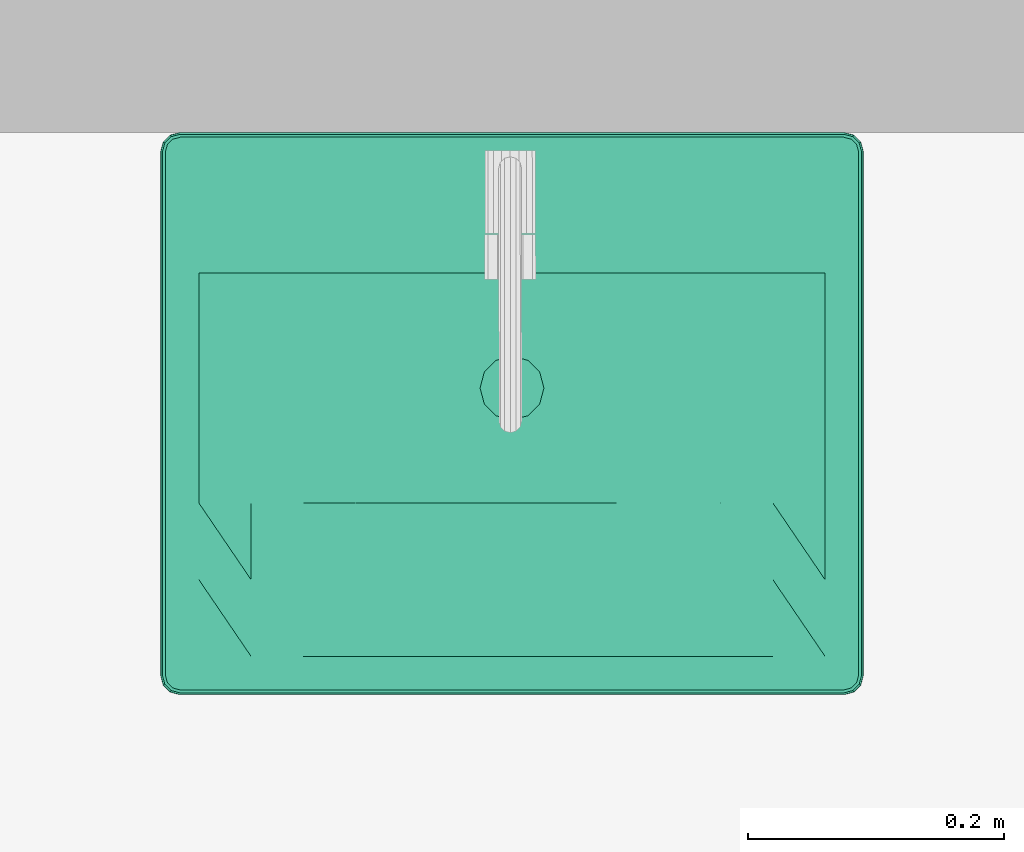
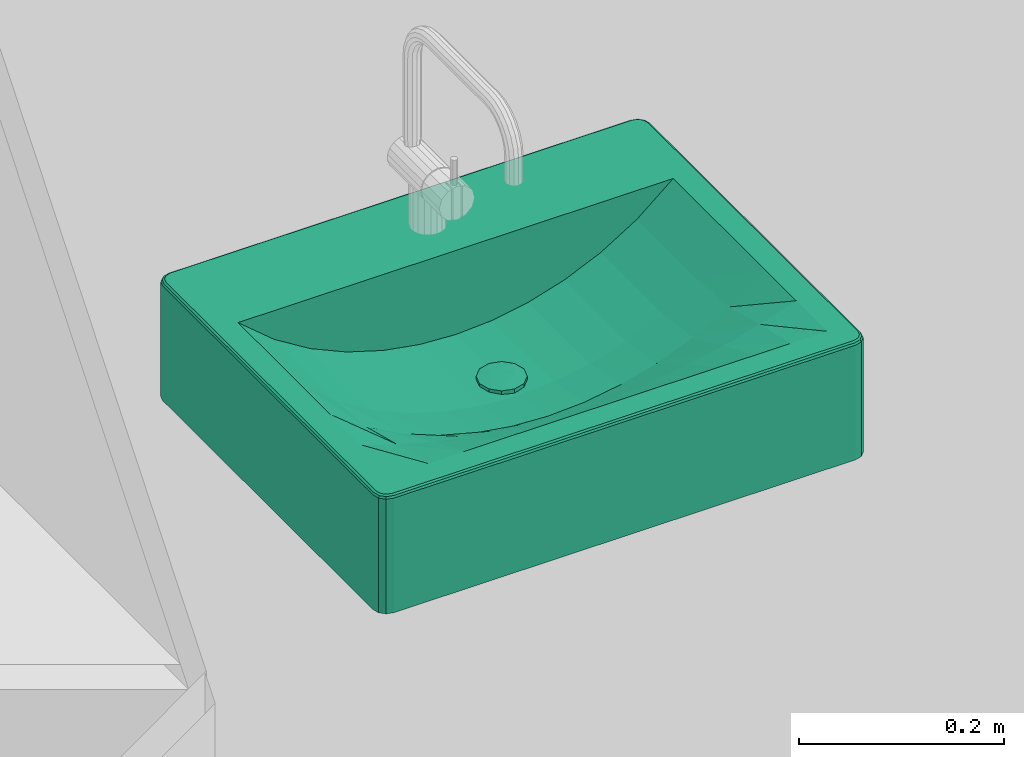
# One storey, part 120 of 194: 1 flow terminal.
"""IFC2X3 building model written with IfcOpenShell, lengths in millimetres."""

import ifcopenshell
import ifcopenshell.guid

model = None  # the IFC model being written
_history = None  # IfcOwnerHistory: only IFC2X3 demands one
_inside = {}  # id of a spatial element -> (the spatial element, [elements in it])
_under = {}  # id of a project, library or spatial element -> (it, [spatial elements below it])
_declared = {}  # id of a project -> (the project, [libraries it declares])
_typed = {}  # id of a type object -> (the type object, [elements of that type])
_made_of = {}  # id of a material, layer set ... -> (it, [elements and type objects made of it])


def new_model(schema):
    """Start an empty IFC model of exactly this schema.

    Asked for "IFC4X3", IfcOpenShell would pick the latest addendum, in which some entities
    have other attributes; the version numbers below select the first issue.
    IFC2X3 requires an IfcOwnerHistory on every rooted entity: one is made here for all.
    """
    global model, _history
    if schema == "IFC4X3":
        model = ifcopenshell.file(schema_version=(4, 3, 0, 0))
    else:
        model = ifcopenshell.file(schema=schema)
    _inside.clear()
    _under.clear()
    _declared.clear()
    _typed.clear()
    _made_of.clear()
    _history = None
    if model.schema == "IFC2X3":
        org = make("IfcOrganization", Name="unknown")
        user = make(
            "IfcPersonAndOrganization",
            ThePerson=make("IfcPerson", FamilyName="unknown"),
            TheOrganization=org,
        )
        app = make(
            "IfcApplication",
            ApplicationDeveloper=org,
            Version="unknown",
            ApplicationFullName="unknown",
            ApplicationIdentifier="unknown",
        )
        _history = make(
            "IfcOwnerHistory",
            OwningUser=user,
            OwningApplication=app,
            ChangeAction="ADDED",
            CreationDate=0,
        )
    return model


def make(cls, **values):
    """One entity of the class cls with the attributes given. An attribute that is None is left unset."""
    return model.create_entity(
        cls, **{name: value for name, value in values.items() if value is not None}
    )


def entity(cls, *values):
    """Any entity or typed value of the class cls, its attributes in the order of the schema. None: left unset."""
    e = model.create_entity(cls)
    for i, value in enumerate(values):
        if value is not None:
            e[i] = value
    return e


def rooted(cls, **values):
    """An entity with a GlobalId (a new one), such as an element, a storey or a relation."""
    return make(cls, GlobalId=ifcopenshell.guid.new(), OwnerHistory=_history, **values)


def si_unit(unit_type, name, prefix=None):
    """IfcSIUnit, for example si_unit("LENGTHUNIT", "METRE", prefix="MILLI")."""
    return make("IfcSIUnit", UnitType=unit_type, Prefix=prefix, Name=name)


def converted_unit(unit_type, name, factor, base, dimensions=None, offset=None):
    """IfcConversionBasedUnit, such as the inch: factor (a typed value) times the base unit."""
    return make(
        "IfcConversionBasedUnit"
        if offset is None
        else "IfcConversionBasedUnitWithOffset",
        ConversionOffset=offset,
        Dimensions=None
        if dimensions is None
        else entity("IfcDimensionalExponents", *dimensions),
        UnitType=unit_type,
        Name=name,
        ConversionFactor=make(
            "IfcMeasureWithUnit", ValueComponent=factor, UnitComponent=base
        ),
    )


def derived_unit(unit_type, elements):
    """IfcDerivedUnit: a product of units, each with its exponent."""
    return make(
        "IfcDerivedUnit",
        Elements=[
            make("IfcDerivedUnitElement", Unit=unit, Exponent=power)
            for unit, power in elements
        ],
        UnitType=unit_type,
    )


def money_unit(currency):
    """IfcMonetaryUnit."""
    return make("IfcMonetaryUnit", Currency=currency)


def assignment(units):
    """IfcUnitAssignment: the units of a project."""
    return None if units is None else make("IfcUnitAssignment", Units=units)


def point(xyz):
    """IfcCartesianPoint."""
    return None if xyz is None else make("IfcCartesianPoint", Coordinates=xyz)


def direction(xyz):
    """IfcDirection."""
    return None if xyz is None else make("IfcDirection", DirectionRatios=xyz)


def frame(location, z_axis=None, x_axis=None):
    """IfcAxis2Placement3D, a coordinate frame: its origin and axes. An axis left out is left unset."""
    return make(
        "IfcAxis2Placement3D",
        Location=point(location),
        Axis=direction(z_axis),
        RefDirection=direction(x_axis),
    )


def origin_with_axes():
    """The frame at (0, 0, 0) with the z axis (0, 0, 1) and the x axis (1, 0, 0) written out."""
    return frame((0.0, 0.0, 0.0), z_axis=(0.0, 0.0, 1.0), x_axis=(1.0, 0.0, 0.0))


def place(relative_to, where):
    """IfcLocalPlacement: puts the frame where relative to a parent placement (None: the world)."""
    return make(
        "IfcLocalPlacement", PlacementRelTo=relative_to, RelativePlacement=where
    )


def context(
    kind, dimensions, precision=None, world=None, true_north=None, identifier=None
):
    """IfcGeometricRepresentationContext, for example the 3D "Model" context."""
    return make(
        "IfcGeometricRepresentationContext",
        ContextIdentifier=identifier,
        ContextType=kind,
        CoordinateSpaceDimension=dimensions,
        Precision=precision,
        WorldCoordinateSystem=world,
        TrueNorth=true_north,
    )


def subcontext(parent, identifier, kind, view, scale=None):
    """IfcGeometricRepresentationSubContext, for example "Body" below "Model"."""
    return make(
        "IfcGeometricRepresentationSubContext",
        ContextIdentifier=identifier,
        ContextType=kind,
        ParentContext=parent,
        TargetScale=scale,
        TargetView=view,
    )


def project(units=None, contexts=None):
    """IfcProject with its units and contexts."""
    return rooted(
        "IfcProject",
        Name="project",
        RepresentationContexts=contexts,
        UnitsInContext=assignment(units),
    )


def spatial(cls, under=None, at=None, **own):
    """A site, building, storey or space (cls), placed at a placement, below another one or the project."""
    s = rooted(cls, ObjectPlacement=at, **own)
    if under is not None:
        _under.setdefault(under.id(), (under, []))[1].append(s)
    return s


def faces_of(points, faces, orient=None, outer=None):
    """IfcFace entities. A face is a list of loops; a loop is a list of indices into points, from 0.

    orient and outer hold one flag for each loop. By default every Orientation is true, the
    first loop of a face is its IfcFaceOuterBound and the others are IfcFaceBound.
    """
    made = []
    for i, loops in enumerate(faces):
        bounds = []
        for j, loop in enumerate(loops):
            is_outer = j == 0 if outer is None else outer[i][j]
            bounds.append(
                make(
                    "IfcFaceOuterBound" if is_outer else "IfcFaceBound",
                    Bound=make("IfcPolyLoop", Polygon=[points[k] for k in loop]),
                    Orientation=True if orient is None else orient[i][j],
                )
            )
        made.append(make("IfcFace", Bounds=bounds))
    return made


def open_shell(faces, orient=None, outer=None):
    """The faces of one IfcOpenShell. surface_model builds it on its shared points."""
    return ("IfcOpenShell", faces, orient, outer)


def faceted_brep(points, faces, orient=None, outer=None, voids=None):
    """IfcFacetedBrep: a solid bounded by flat faces; with voids (closed shells), ...WithVoids."""
    shared = [point(p) for p in points]
    hull = make("IfcClosedShell", CfsFaces=faces_of(shared, faces, orient, outer))
    if voids is None:
        return make("IfcFacetedBrep", Outer=hull)
    return make(
        "IfcFacetedBrepWithVoids",
        Outer=hull,
        Voids=[
            make(cls, CfsFaces=faces_of(shared, fs, o, b)) for cls, fs, o, b in voids
        ],
    )


def surface_model(cls, points, shells):
    """IfcFaceBasedSurfaceModel or IfcShellBasedSurfaceModel (cls): surfaces that need not close."""
    shared = [point(p) for p in points]
    made = [make(c, CfsFaces=faces_of(shared, fs, o, b)) for c, fs, o, b in shells]
    if cls == "IfcFaceBasedSurfaceModel":
        return make(cls, FbsmFaces=made)
    return make(cls, SbsmBoundary=made)


def shape(context_of_items, identifier, shape_type, items):
    """IfcShapeRepresentation: the items that make up one representation, for example the "Body"."""
    return make(
        "IfcShapeRepresentation",
        ContextOfItems=context_of_items,
        RepresentationIdentifier=identifier,
        RepresentationType=shape_type,
        Items=items,
    )


def source(mapping_origin, context_of_items, identifier, shape_type, items):
    """IfcRepresentationMap: a shape defined once, which mapped items show again and again."""
    return make(
        "IfcRepresentationMap",
        MappingOrigin=mapping_origin,
        MappedRepresentation=shape(context_of_items, identifier, shape_type, items),
    )


def transform(
    local_origin,
    x_axis=None,
    y_axis=None,
    z_axis=None,
    scale=None,
    scale2=None,
    scale3=None,
    uniform=True,
):
    """IfcCartesianTransformationOperator3D, or its non-uniform kind. x_axis, y_axis, z_axis: its Axis1, 2, 3."""
    if uniform:
        return make(
            "IfcCartesianTransformationOperator3D",
            Axis1=direction(x_axis),
            Axis2=direction(y_axis),
            LocalOrigin=point(local_origin),
            Scale=scale,
            Axis3=direction(z_axis),
        )
    return make(
        "IfcCartesianTransformationOperator3DnonUniform",
        Axis1=direction(x_axis),
        Axis2=direction(y_axis),
        LocalOrigin=point(local_origin),
        Scale=scale,
        Axis3=direction(z_axis),
        Scale2=scale2,
        Scale3=scale3,
    )


def mapped(mapping_source, mapping_target):
    """IfcMappedItem: shows the shape of a source again, moved by a transform."""
    return make(
        "IfcMappedItem", MappingSource=mapping_source, MappingTarget=mapping_target
    )


def made_of(thing, what):
    """Note that an element or type object is made of a material, layer set ...; save() writes the relation."""
    if what is not None:
        _made_of.setdefault(what.id(), (what, []))[1].append(thing)
    return thing


def type_object(cls, material=None, **own):
    """A type object (cls), such as IfcWallType, which elements share."""
    return made_of(rooted(cls, **own), material)


def element(
    cls,
    number,
    at=None,
    inside=None,
    cuts=None,
    type_object=None,
    material=None,
    context=None,
    identifier="Body",
    shape_type=None,
    held_by="IfcProductDefinitionShape",
    body=None,
    shapes=None,
    **own,
):
    """One element of the class cls, such as IfcWall. Its Tag is "e" and its number.

    at: its placement. inside: the storey or other place that contains it. cuts: it is an
    opening in that element (IfcRelVoidsElement). A single representation is given by context,
    identifier, shape_type and body (its items); several are given by shapes. held_by: the class
    of the entity that holds the representations. save() writes the other relations.
    """
    e = rooted(cls, Tag="e%d" % number, ObjectPlacement=at, **own)
    if body is not None:
        shapes = [shape(context, identifier, shape_type, body)]
    if shapes is not None:
        e.Representation = make(held_by, Representations=shapes)
    if inside is not None:
        _inside.setdefault(inside.id(), (inside, []))[1].append(e)
    if cuts is not None:
        rooted(
            "IfcRelVoidsElement", RelatingBuildingElement=cuts, RelatedOpeningElement=e
        )
    if type_object is not None:
        _typed.setdefault(type_object.id(), (type_object, []))[1].append(e)
    return made_of(e, material)


def aggregate(whole, parts):
    """IfcRelAggregates: a whole, such as a stair, and the parts it consists of."""
    return rooted("IfcRelAggregates", RelatingObject=whole, RelatedObjects=parts)


def save(model, path):
    """Write the relations noted so far, then the file.

    IfcRelAggregates (storeys below a building ...), IfcRelContainedInSpatialStructure (elements
    in a storey), IfcRelDefinesByType, IfcRelAssociatesMaterial and IfcRelDeclares: one each for
    every whole, place, type object, material and project.
    """
    for whole, parts in _under.values():
        aggregate(whole, parts)
    for where, things in _inside.values():
        rooted(
            "IfcRelContainedInSpatialStructure",
            RelatedElements=things,
            RelatingStructure=where,
        )
    for kind, things in _typed.values():
        rooted("IfcRelDefinesByType", RelatedObjects=things, RelatingType=kind)
    for what, things in _made_of.values():
        rooted("IfcRelAssociatesMaterial", RelatedObjects=things, RelatingMaterial=what)
    for by, libraries in _declared.values():
        rooted("IfcRelDeclares", RelatingContext=by, RelatedDefinitions=libraries)
    model.write(path)


model = new_model("IFC2X3")

# Units and contexts
model_context = context("Model", 3, precision=1e-05, world=origin_with_axes(), true_north=direction((0.0, 1.0)))
body_context = subcontext(model_context, "Body", "Model", "MODEL_VIEW")
ifc_project = project(units=[si_unit("LENGTHUNIT", "METRE", prefix="MILLI"), si_unit("AREAUNIT", "SQUARE_METRE"), si_unit("VOLUMEUNIT", "CUBIC_METRE"), converted_unit("PLANEANGLEUNIT", "DEGREE", entity("IfcPlaneAngleMeasure", 0.0174532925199), si_unit("PLANEANGLEUNIT", "RADIAN"), dimensions=[0, 0, 0, 0, 0, 0, 0]), si_unit("SOLIDANGLEUNIT", "STERADIAN"), money_unit("EUR"), converted_unit("TIMEUNIT", "Year", entity("IfcTimeMeasure", 31556926.0), si_unit("TIMEUNIT", "SECOND"), dimensions=[0, 0, 1, 0, 0, 0, 0]), si_unit("MASSUNIT", "GRAM", prefix="KILO"), si_unit("THERMODYNAMICTEMPERATUREUNIT", "DEGREE_CELSIUS"), si_unit("LUMINOUSINTENSITYUNIT", "LUMEN"), si_unit("ENERGYUNIT", "JOULE", prefix="MEGA"), derived_unit("THERMALCONDUCTANCEUNIT", [(si_unit("POWERUNIT", "WATT"), 1), (si_unit("LENGTHUNIT", "METRE"), -1), (si_unit("THERMODYNAMICTEMPERATUREUNIT", "KELVIN"), -1)]), derived_unit("SPECIFICHEATCAPACITYUNIT", [(si_unit("ENERGYUNIT", "JOULE"), 1), (si_unit("MASSUNIT", "GRAM", prefix="KILO"), -1), (si_unit("THERMODYNAMICTEMPERATUREUNIT", "KELVIN"), -1)]), derived_unit("MASSDENSITYUNIT", [(si_unit("MASSUNIT", "GRAM", prefix="KILO"), 1), (si_unit("VOLUMEUNIT", "CUBIC_METRE"), -1)])], contexts=[model_context])

# Site, building, storey
site_placement = place(None, origin_with_axes())
site = spatial("IfcSite", under=ifc_project, at=site_placement, Name="Site", CompositionType="ELEMENT")
building_placement = place(site_placement, origin_with_axes())
building = spatial("IfcBuilding", under=site, at=building_placement, Name="Building", CompositionType="ELEMENT")
storey_placement = place(building_placement, frame((0.0, 0.0, 3000.0), z_axis=(0.0, 0.0, 1.0), x_axis=(1.0, 0.0, 0.0)))
storey = spatial("IfcBuildingStorey", under=building, at=storey_placement, Name="2 KORRUS", CompositionType="ELEMENT", Elevation=3000.0)

# Flow terminal
sanitary_terminal_type = type_object("IfcSanitaryTerminalType", Name="Basin 22", PredefinedType="NOTDEFINED")
shared_shape = source(origin_with_axes(), body_context, "Body", "SurfaceModel", [
    faceted_brep([(-260.0, -440.0, 860.0), (-267.5, -437.990381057, 860.0), (-272.990381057, -432.5, 860.0), (-275.0, -425.0, 860.0), (-275.0, -15.0, 860.0), (-272.990381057, -7.5, 860.0), (-267.5, -2.00961894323, 860.0), (-260.0, 0.0, 860.0), (260.0, 0.0, 860.0), (267.5, -2.00961894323, 860.0), (272.990381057, -7.5, 860.0), (275.0, -15.0, 860.0), (275.0, -425.0, 860.0), (272.990381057, -432.5, 860.0), (267.5, -437.990381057, 860.0), (260.0, -440.0, 860.0), (245.0, -410.0, 860.0), (245.0, -110.0, 860.0), (-245.0, -110.0, 860.0), (-245.0, -410.0, 860.0), (-259.999999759, -440.00000039, 995.0), (-267.500000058, -437.990381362, 995.0), (-272.990381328, -432.500000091, 995.0), (-275.000000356, -424.999999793, 995.0), (-275.000000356, -14.9999996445, 995.0), (-272.990381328, -7.50000027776, 995.0), (-267.500000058, -2.00961900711, 995.0), (-259.999999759, 2.02655670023e-08, 995.0), (259.999999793, 2.02655670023e-08, 995.0), (267.500000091, -2.00961900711, 995.0), (272.990381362, -7.50000027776, 995.0), (275.00000039, -14.9999996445, 995.0), (275.00000039, -424.999999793, 995.0), (272.990381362, -432.500000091, 995.0), (267.500000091, -437.990381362, 995.0), (259.999999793, -440.00000039, 995.0), (245.0, -110.0, 999.999999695), (245.0, -410.0, 999.999999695), (-245.0, -110.0, 999.999999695), (-245.0, -410.0, 999.999999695), (-259.977570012, -439.829629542, 996.294095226), (-267.411809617, -437.837631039, 996.294095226), (-272.837631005, -432.411809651, 996.294095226), (-274.829629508, -424.977570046, 996.294095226), (-274.829629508, -15.0224293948, 996.294095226), (-272.837631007, -7.58819072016, 996.294095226), (-267.411809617, -2.16236933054, 996.294095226), (-259.977570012, -0.170370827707, 996.294095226), (259.977570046, -0.170370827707, 996.294095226), (267.411809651, -2.16236933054, 996.294095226), (272.837631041, -7.58819072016, 996.294095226), (274.829629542, -15.0224293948, 996.294095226), (274.829629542, -424.977570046, 996.294095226), (272.837631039, -432.411809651, 996.294095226), (267.411809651, -437.837631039, 996.294095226), (259.977570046, -439.829629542, 996.294095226), (259.34173768, -4.99999712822, 999.999999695), (-259.341737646, -4.99999712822, 999.999999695), (-264.911811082, -6.49249381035, 999.999999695), (-268.507506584, -10.0881893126, 999.999999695), (-270.000003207, -15.6582618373, 999.999999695), (-270.000003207, -424.34173768, 999.999999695), (-268.507506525, -429.911811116, 999.999999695), (-264.911811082, -433.507506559, 999.999999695), (-259.341737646, -435.000003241, 999.999999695), (259.34173768, -435.000003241, 999.999999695), (264.911811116, -433.507506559, 999.999999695), (268.507506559, -429.911811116, 999.999999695), (270.000003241, -424.34173768, 999.999999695), (270.000003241, -15.6582618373, 999.999999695), (268.507506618, -10.0881893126, 999.999999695), (264.911811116, -6.49249381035, 999.999999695), (-259.807199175, -438.535534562, 998.535533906), (-266.741936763, -436.677377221, 998.535533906), (-271.677377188, -431.741936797, 998.535533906), (-273.535534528, -424.807199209, 998.535533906), (-273.535534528, -15.1928002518, 998.535533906), (-271.677377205, -8.2580635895, 998.535533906), (-266.741936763, -3.32262314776, 998.535533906), (-259.807199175, -1.46446580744, 998.535533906), (259.807199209, -1.46446580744, 998.535533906), (266.741936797, -3.32262314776, 998.535533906), (271.677377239, -8.2580635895, 998.535533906), (273.535534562, -15.1928002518, 998.535533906), (273.535534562, -424.807199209, 998.535533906), (271.677377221, -431.741936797, 998.535533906), (266.741936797, -436.677377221, 998.535533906), (259.807199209, -438.535534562, 998.535533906), (259.512108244, -3.70590421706, 999.829629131), (-259.51210821, -3.70590421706, 999.829629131), (-265.581682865, -5.33224184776, 999.829629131), (-269.667758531, -9.41831751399, 999.829629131), (-271.294096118, -15.4878912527, 999.829629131), (-271.294096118, -424.512108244, 999.829629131), (-269.667758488, -430.581682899, 999.829629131), (-265.581682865, -434.667758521, 999.829629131), (-259.51210821, -436.294096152, 999.829629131), (259.512108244, -436.294096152, 999.829629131), (265.581682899, -434.667758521, 999.829629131), (269.667758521, -430.581682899, 999.829629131), (271.294096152, -424.512108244, 999.829629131), (271.294096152, -15.4878912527, 999.829629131), (269.667758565, -9.41831751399, 999.829629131), (265.581682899, -5.33224184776, 999.829629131)], [[[0, 1, 2, 3, 4, 5, 6, 7, 8, 9, 10, 11, 12, 13, 14, 15], [16, 17, 18, 19]], [[1, 0, 20, 21]], [[2, 1, 21, 22]], [[3, 2, 22, 23]], [[4, 3, 23, 24]], [[5, 4, 24, 25]], [[6, 5, 25, 26]], [[7, 6, 26, 27]], [[8, 7, 27, 28]], [[9, 8, 28, 29]], [[10, 9, 29, 30]], [[11, 10, 30, 31]], [[12, 11, 31, 32]], [[13, 12, 32, 33]], [[14, 13, 33, 34]], [[15, 14, 34, 35]], [[0, 15, 35, 20]], [[36, 17, 16, 37]], [[38, 18, 17, 36]], [[39, 19, 18, 38]], [[37, 16, 19, 39]], [[21, 20, 40, 41]], [[22, 21, 41, 42]], [[23, 22, 42, 43]], [[24, 23, 43, 44]], [[25, 24, 44, 45]], [[26, 25, 45, 46]], [[27, 26, 46, 47]], [[28, 27, 47, 48]], [[29, 28, 48, 49]], [[30, 29, 49, 50]], [[31, 30, 50, 51]], [[32, 31, 51, 52]], [[33, 32, 52, 53]], [[34, 33, 53, 54]], [[35, 34, 54, 55]], [[20, 35, 55, 40]], [[56, 57, 58, 59, 60, 61, 62, 63, 64, 65, 66, 67, 68, 69, 70, 71], [37, 39, 38, 36]], [[41, 40, 72, 73]], [[42, 41, 73, 74]], [[43, 42, 74, 75]], [[44, 43, 75, 76]], [[45, 44, 76, 77]], [[46, 45, 77, 78]], [[47, 46, 78, 79]], [[48, 47, 79, 80]], [[49, 48, 80, 81]], [[50, 49, 81, 82]], [[51, 50, 82, 83]], [[52, 51, 83, 84]], [[53, 52, 84, 85]], [[54, 53, 85, 86]], [[55, 54, 86, 87]], [[40, 55, 87, 72]], [[88, 89, 57, 56]], [[89, 90, 58, 57]], [[90, 91, 59, 58]], [[91, 92, 60, 59]], [[92, 93, 61, 60]], [[93, 94, 62, 61]], [[94, 95, 63, 62]], [[95, 96, 64, 63]], [[96, 97, 65, 64]], [[97, 98, 66, 65]], [[98, 99, 67, 66]], [[99, 100, 68, 67]], [[100, 101, 69, 68]], [[101, 102, 70, 69]], [[102, 103, 71, 70]], [[103, 88, 56, 71]], [[73, 72, 96, 95]], [[74, 73, 95, 94]], [[75, 74, 94, 93]], [[76, 75, 93, 92]], [[77, 76, 92, 91]], [[78, 77, 91, 90]], [[79, 78, 90, 89]], [[80, 79, 89, 88]], [[81, 80, 88, 103]], [[82, 81, 103, 102]], [[83, 82, 102, 101]], [[84, 83, 101, 100]], [[85, 84, 100, 99]], [[86, 85, 99, 98]], [[87, 86, 98, 97]], [[72, 87, 97, 96]]]),
    faceted_brep([(245.0, -410.0, 860.0), (-245.0, -410.0, 860.0), (-245.0, -110.0, 860.0), (245.0, -110.0, 860.0), (-12.5, -221.641635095, 860.0), (0.0, -224.991, 860.0), (12.5, -221.641635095, 860.0), (21.6506350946, -212.491, 860.0), (25.0, -199.991, 860.0), (21.6506350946, -187.491, 860.0), (12.5, -178.340364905, 860.0), (0.0, -174.991, 860.0), (-12.5, -178.340364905, 860.0), (-21.6506350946, -187.491, 860.0), (-25.0, -199.991, 860.0), (-21.6506350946, -212.491, 860.0), (122.5, -410.0, 1000.0), (81.6666666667, -410.0, 1000.0), (40.8333333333, -410.0, 1000.0), (0.0, -410.0, 1000.0), (-40.8333333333, -410.0, 1000.0), (-81.6666666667, -410.0, 1000.0), (-122.5, -410.0, 1000.0), (-163.333333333, -410.0, 1000.0), (-204.166666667, -410.0, 1000.0), (-245.0, -410.0, 1000.0), (245.0, -410.0, 1000.0), (204.166666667, -410.0, 1000.0), (163.333333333, -410.0, 1000.0), (-245.0, -230.0, 1000.0), (-245.0, -170.0, 1000.0), (-245.0, -110.0, 1000.0), (-245.0, -350.0, 1000.0), (-245.0, -290.0, 1000.0), (-122.5, -110.0, 922.129168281), (-81.6666666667, -110.0, 909.657569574), (-40.8333333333, -110.0, 902.389246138), (0.0, -110.0, 900.0), (40.8333333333, -110.0, 902.389246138), (81.6666666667, -110.0, 909.657569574), (122.5, -110.0, 922.129168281), (163.333333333, -110.0, 940.432026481), (204.166666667, -110.0, 965.689615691), (245.0, -110.0, 1000.0), (-204.166666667, -110.0, 965.689615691), (-163.333333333, -110.0, 940.432026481), (245.0, -290.0, 1000.0), (245.0, -350.0, 1000.0), (245.0, -170.0, 1000.0), (245.0, -230.0, 1000.0), (0.0, -224.991, 900.0), (-12.5, -221.641635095, 900.731401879), (12.5, -221.641635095, 900.731401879), (21.6506350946, -212.491, 901.266825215), (25.0, -199.991, 901.462803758), (21.6506350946, -187.491, 901.266825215), (12.5, -178.340364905, 900.731401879), (0.0, -174.991, 900.0), (-12.5, -178.340364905, 900.731401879), (-21.6506350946, -187.491, 901.266825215), (-25.0, -199.991, 901.462803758), (-21.6506350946, -212.491, 901.266825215), (81.6666666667, -350.0, 960.520155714), (40.8333333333, -350.0, 956.933224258), (0.0, -350.0, 955.741663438), (-40.8333333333, -350.0, 956.933224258), (-81.6666666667, -350.0, 960.520155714), (-122.5, -350.0, 966.539843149), (-163.333333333, -350.0, 975.056802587), (-204.166666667, -350.0, 986.166287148), (204.166666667, -350.0, 986.166287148), (163.333333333, -350.0, 975.056802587), (122.5, -350.0, 966.539843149), (-204.166666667, -230.0, 965.689615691), (-204.166666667, -170.0, 965.689615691), (-204.166666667, -290.0, 970.594758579), (-122.5, -170.0, 922.129168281), (-81.6666666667, -170.0, 909.657569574), (-40.8333333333, -170.0, 902.389246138), (0.0, -170.0, 900.0), (40.8333333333, -170.0, 902.389246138), (81.6666666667, -170.0, 909.657569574), (122.5, -170.0, 922.129168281), (163.333333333, -170.0, 940.432026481), (204.166666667, -170.0, 965.689615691), (-163.333333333, -170.0, 940.432026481), (204.166666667, -290.0, 970.594758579), (204.166666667, -230.0, 965.689615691), (-40.8333333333, -230.0, 902.389246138), (0.0, -230.0, 900.0), (40.8333333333, -230.0, 902.389246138), (-163.333333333, -230.0, 940.432026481), (-122.5, -230.0, 922.129168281), (-81.6666666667, -230.0, 909.657569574), (81.6666666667, -230.0, 909.657569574), (122.5, -230.0, 922.129168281), (163.333333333, -230.0, 940.432026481), (0.0, -290.0, 912.025576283), (40.8333333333, -290.0, 914.19632473), (81.6666666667, -290.0, 920.783680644), (-40.8333333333, -290.0, 914.19632473), (-81.6666666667, -290.0, 920.783680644), (-122.5, -290.0, 932.026603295), (-163.333333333, -290.0, 948.375008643), (163.333333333, -290.0, 948.375008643), (122.5, -290.0, 932.026603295)], [[[0, 1, 2, 3], [4, 5, 6, 7, 8, 9, 10, 11, 12, 13, 14, 15]], [[16, 17, 18, 19, 20, 21, 22, 23, 24, 25, 1, 0, 26, 27, 28]], [[29, 30, 31, 2, 1, 25, 32, 33]], [[34, 35, 36, 37, 38, 39, 40, 41, 42, 43, 3, 2, 31, 44, 45]], [[46, 47, 26, 0, 3, 43, 48, 49]], [[50, 5, 4, 51]], [[52, 6, 5, 50]], [[53, 7, 6, 52]], [[54, 8, 7, 53]], [[55, 9, 8, 54]], [[56, 10, 9, 55]], [[57, 11, 10, 56]], [[58, 12, 11, 57]], [[59, 13, 12, 58]], [[60, 14, 13, 59]], [[61, 15, 14, 60]], [[51, 4, 15, 61]], [[16, 62, 17]], [[17, 63, 18]], [[18, 64, 19]], [[19, 65, 20]], [[20, 66, 21]], [[21, 67, 22]], [[22, 68, 23]], [[23, 69, 24]], [[24, 32, 25]], [[26, 70, 27]], [[27, 71, 28]], [[28, 72, 16]], [[29, 73, 74, 30]], [[30, 74, 44, 31]], [[69, 33, 32]], [[75, 29, 33]], [[76, 77, 35, 34]], [[77, 78, 36, 35]], [[78, 79, 37, 36]], [[79, 80, 38, 37]], [[80, 81, 39, 38]], [[81, 82, 40, 39]], [[82, 83, 41, 40]], [[83, 84, 42, 41]], [[84, 48, 43, 42]], [[74, 85, 45, 44]], [[85, 76, 34, 45]], [[47, 46, 86]], [[26, 47, 70]], [[87, 49, 48, 84]], [[46, 49, 87]], [[58, 57, 79, 78, 88, 89, 50, 51, 61, 60, 59]], [[56, 55, 54, 53, 52, 50, 89, 90, 80, 79, 57]], [[16, 72, 62]], [[17, 62, 63]], [[18, 63, 64]], [[19, 64, 65]], [[20, 65, 66]], [[21, 66, 67]], [[22, 67, 68]], [[23, 68, 69]], [[24, 69, 32]], [[27, 70, 71]], [[28, 71, 72]], [[75, 73, 29]], [[73, 91, 85, 74]], [[69, 75, 33]], [[92, 93, 77, 76]], [[93, 88, 78, 77]], [[90, 94, 81, 80]], [[94, 95, 82, 81]], [[95, 96, 83, 82]], [[96, 87, 84, 83]], [[91, 92, 76, 85]], [[46, 87, 86]], [[47, 86, 70]], [[97, 89, 88]], [[98, 90, 89]], [[72, 99, 62]], [[62, 98, 63]], [[63, 97, 64]], [[64, 100, 65]], [[65, 101, 66]], [[66, 102, 67]], [[67, 103, 68]], [[68, 75, 69]], [[70, 104, 71]], [[71, 105, 72]], [[103, 73, 75]], [[103, 91, 73]], [[101, 93, 92]], [[100, 88, 93]], [[99, 94, 90]], [[105, 95, 94]], [[104, 96, 95]], [[86, 87, 96]], [[102, 92, 91]], [[70, 86, 104]], [[98, 89, 97]], [[97, 88, 100]], [[99, 90, 98]], [[72, 105, 99]], [[62, 99, 98]], [[63, 98, 97]], [[64, 97, 100]], [[65, 100, 101]], [[66, 101, 102]], [[67, 102, 103]], [[68, 103, 75]], [[71, 104, 105]], [[102, 91, 103]], [[100, 93, 101]], [[101, 92, 102]], [[105, 94, 99]], [[104, 95, 105]], [[86, 96, 104]]]),
    faceted_brep([(-21.6506350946, -212.491, 900.0), (-25.0, -199.991, 900.0), (-21.6506350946, -187.491, 900.0), (-12.5, -178.340364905, 900.0), (0.0, -174.991, 900.0), (12.5, -178.340364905, 900.0), (21.6506350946, -187.491, 900.0), (25.0, -199.991, 900.0), (21.6506350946, -212.491, 900.0), (12.5, -221.641635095, 900.0), (0.0, -224.991, 900.0), (-12.5, -221.641635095, 900.0), (-21.6506350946, -212.491, 905.0), (-25.0, -199.991, 905.0), (-21.6506350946, -187.491, 905.0), (-12.5, -178.340364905, 905.0), (0.0, -174.991, 905.0), (12.5, -178.340364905, 905.0), (21.6506350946, -187.491, 905.0), (25.0, -199.991, 905.0), (21.6506350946, -212.491, 905.0), (12.5, -221.641635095, 905.0), (0.0, -224.991, 905.0), (-12.5, -221.641635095, 905.0)], [[[0, 1, 2, 3, 4, 5, 6, 7, 8, 9, 10, 11]], [[0, 12, 13, 1]], [[1, 13, 14, 2]], [[2, 14, 15, 3]], [[3, 15, 16, 4]], [[4, 16, 17, 5]], [[5, 17, 18, 6]], [[6, 18, 19, 7]], [[7, 19, 20, 8]], [[8, 20, 21, 9]], [[9, 21, 22, 10]], [[10, 22, 23, 11]], [[11, 23, 12, 0]], [[12, 23, 22, 21, 20, 19, 18, 17, 16, 15, 14, 13]]]),
    surface_model("IfcShellBasedSurfaceModel", [(0.0, -199.991, 907.0), (6.31095278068, -189.06010914, 906.49757372), (0.0, -187.369094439, 906.49757372), (10.9308908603, -193.680047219, 906.49757372), (12.5, -178.340364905, 905.0), (0.0, -174.991, 905.0), (-6.31095278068, -189.06010914, 906.49757372), (12.6219055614, -199.991, 906.49757372), (21.6506350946, -187.491, 905.0), (-12.5, -178.340364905, 905.0), (-10.9308908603, -193.680047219, 906.49757372), (10.9308908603, -206.301952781, 906.49757372), (25.0, -199.991, 905.0), (-21.6506350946, -187.491, 905.0), (-12.6219055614, -199.991, 906.49757372), (6.31095278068, -210.92189086, 906.49757372), (21.6506350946, -212.491, 905.0), (-25.0, -199.991, 905.0), (-10.9308908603, -206.301952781, 906.49757372), (0.0, -212.612905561, 906.49757372), (12.5, -221.641635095, 905.0), (-21.6506350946, -212.491, 905.0), (-6.31095278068, -210.92189086, 906.49757372), (0.0, -224.991, 905.0), (-12.5, -221.641635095, 905.0)], [open_shell([[[0, 1, 2]], [[0, 3, 1]], [[1, 4, 5, 2]], [[0, 2, 6]], [[0, 7, 3]], [[3, 8, 4, 1]], [[2, 5, 9, 6]], [[0, 6, 10]], [[0, 11, 7]], [[7, 12, 8, 3]], [[6, 9, 13, 10]], [[0, 10, 14]], [[0, 15, 11]], [[11, 16, 12, 7]], [[10, 13, 17, 14]], [[0, 14, 18]], [[0, 19, 15]], [[15, 20, 16, 11]], [[14, 17, 21, 18]], [[0, 18, 22]], [[0, 22, 19]], [[19, 23, 20, 15]], [[18, 21, 24, 22]], [[22, 24, 23, 19]]])]),
])
flow_terminal_placement = place(storey_placement, frame((83200.1887861, 40583.0649281, 40.0), z_axis=(0.0, 0.0, 1.0), x_axis=(1.0, 0.0, 0.0)))
element("IfcFlowTerminal", 1, at=flow_terminal_placement, inside=storey, type_object=sanitary_terminal_type, Name="Valamu", context=body_context, shape_type="MappedRepresentation", body=[
    mapped(shared_shape, transform((0.0, 0.0, 0.0))),
])

save(model, "model.ifc")
